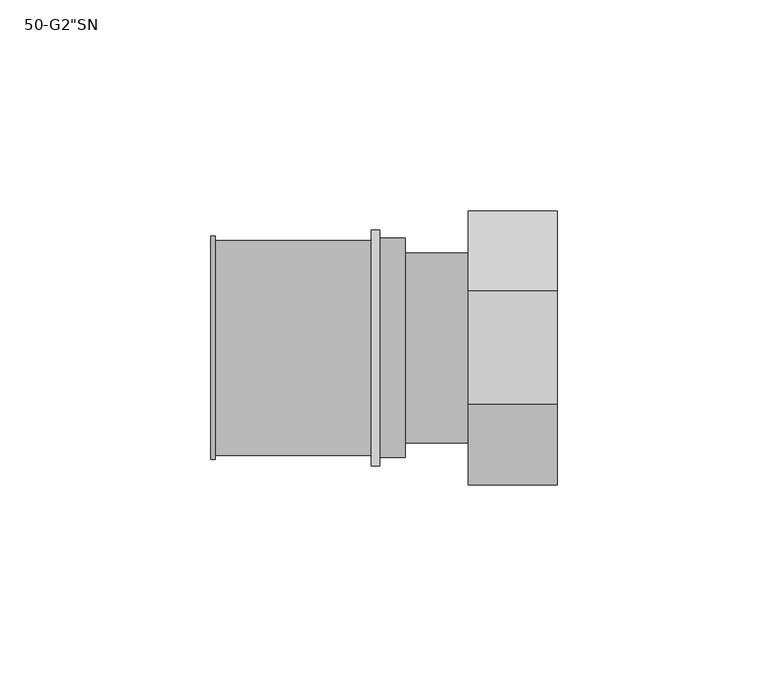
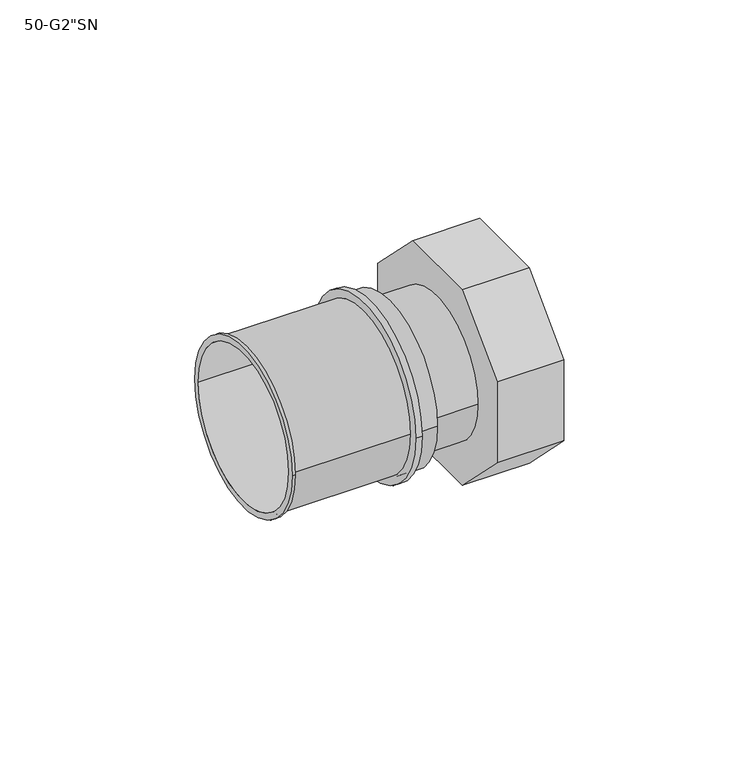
"""IFC4 building model written with IfcOpenShell, lengths in millimetres: pipe fitting geometry."""

from ifc_helpers import new_model, si_unit, point, frame, origin, origin_2d, place, context, project, spatial, polyline, circle_curve, trimmed, segment, composite_curve, outline, extrude, source, transform, mapped, element, save
from ifc_brep_helpers import plane_surface, cylinder_surface, revolved_surface, advanced_brep


def pipe_fitting_b5cbe250(model_context):
    return source(origin(), model_context, "Body", "SolidModel", [
        extrude(outline(composite_curve([segment(trimmed(circle_curve(origin_2d(), 28.0), [point((-28.0, 0.0))], [point((28.0, 0.0))], False, "CARTESIAN"), True, "CONTINUOUS"), segment(trimmed(circle_curve(origin_2d(), 28.0), [point((28.0, 0.0))], [point((-28.0, 0.0))], False, "CARTESIAN"), True, "CONTINUOUS")], self_intersect=False), holes=[composite_curve([segment(trimmed(circle_curve(origin_2d(), 24.5), [point((24.5, 0.0))], [point((-24.5, 0.0))], True, "CARTESIAN"), True, "CONTINUOUS"), segment(trimmed(circle_curve(origin_2d(), 24.5), [point((-24.5, 0.0))], [point((24.5, 0.0))], True, "CARTESIAN"), True, "CONTINUOUS")], self_intersect=False)]), frame((-5.0, 0.0, 0.0), z_axis=(1.0, 0.0, 0.0), x_axis=(0.0, 1.0, 0.0)), (0.0, 0.0, 1.0), 2.0),
        advanced_brep(
        [(25.0, -26.0, 0.0), (25.0, 26.0, 0.0), (39.0, 26.0, 0.0), (39.0, -26.0, 0.0), (18.0, -32.5, 13.4619408), (18.0, -13.4619408, 32.5), (18.0, 13.4619408, 32.5), (18.0, 32.5, 13.4619408), (18.0, 32.5, -13.4619408), (18.0, 13.4619408, -32.5), (18.0, -13.4619408, -32.5), (18.0, -32.5, -13.4619408), (39.0, -32.5, 13.4619408), (39.0, -32.5, -13.4619408), (39.0, -13.4619408, -32.5), (39.0, 13.4619408, -32.5), (39.0, 32.5, -13.4619408), (39.0, 32.5, 13.4619408), (39.0, 13.4619408, 32.5), (39.0, -13.4619408, 32.5)],
        [
            (0, 1, circle_curve(frame((25.0, 0.0, 0.0), z_axis=(1.0, 0.0, 0.0), x_axis=(0.0, 1.0, 0.0)), 26.0)),
            (1, 0, circle_curve(frame((25.0, 0.0, 0.0), z_axis=(1.0, 0.0, 0.0), x_axis=(0.0, 1.0, 0.0)), 26.0)),
            (1, 2),
            (2, 3, circle_curve(frame((39.0, 0.0, 0.0), z_axis=(1.0, 0.0, 0.0), x_axis=(0.0, 1.0, 0.0)), 26.0)),
            (3, 0),
            (3, 2, circle_curve(frame((39.0, 0.0, 0.0), z_axis=(1.0, 0.0, 0.0), x_axis=(0.0, 1.0, 0.0)), 26.0)),
            (4, 5),
            (5, 6),
            (6, 7),
            (7, 8),
            (8, 9),
            (9, 10),
            (10, 11),
            (11, 4),
            (12, 13),
            (13, 14),
            (14, 15),
            (15, 16),
            (16, 17),
            (17, 18),
            (18, 19),
            (19, 12),
            (4, 12),
            (19, 5),
            (18, 6),
            (17, 7),
            (16, 8),
            (15, 9),
            (14, 10),
            (13, 11),
        ],
        [
            plane_surface(frame((25.0, 0.0, 0.0), z_axis=(1.0, 0.0, 0.0), x_axis=(0.0, 0.0, 1.0))),
            revolved_surface(polyline([(25.0, 26.0, 0.0), (39.0, 26.0, 0.0)]), (25.0, 0.0, 0.0), (-1.0, 0.0, 0.0)),
            plane_surface(frame((18.0, 0.0, 0.0), z_axis=(-1.0, 0.0, 0.0), x_axis=(0.0, 0.0, 1.0))),
            plane_surface(frame((39.0, 0.0, 0.0), z_axis=(1.0, 0.0, 0.0), x_axis=(0.0, 0.0, 1.0))),
            plane_surface(frame((18.0, -32.5, 13.4619408), z_axis=(0.0, -0.7071067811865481, 0.707106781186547), x_axis=(1.0, 0.0, 0.0))),
            plane_surface(frame((18.0, -13.4619408, 32.5), z_axis=(0.0, 0.0, 1.0), x_axis=(1.0, 0.0, 0.0))),
            plane_surface(frame((18.0, 13.4619408, 32.5), z_axis=(0.0, 0.7071067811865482, 0.7071067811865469), x_axis=(1.0, 0.0, 0.0))),
            plane_surface(frame((18.0, 32.5, 13.4619408), z_axis=(0.0, 1.0, 0.0), x_axis=(1.0, 0.0, 0.0))),
            plane_surface(frame((18.0, 32.5, -13.4619408), z_axis=(0.0, 0.7071067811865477, -0.7071067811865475), x_axis=(1.0, 0.0, 0.0))),
            plane_surface(frame((18.0, 13.4619408, -32.5), z_axis=(0.0, 0.0, -1.0), x_axis=(1.0, 0.0, 0.0))),
            plane_surface(frame((18.0, -13.4619408, -32.5), z_axis=(0.0, -0.707106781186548, -0.707106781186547), x_axis=(1.0, 0.0, 0.0))),
            plane_surface(frame((18.0, -32.5, -13.4619408), z_axis=(0.0, -1.0, 0.0), x_axis=(1.0, 0.0, 0.0))),
        ],
        [
            (0, [[1, 2]]),
            (1, [[-2, 3, 4, 5]]),
            (1, [[-1, -5, 6, -3]]),
            (2, [[7, 8, 9, 10, 11, 12, 13, 14]]),
            (3, [[15, 16, 17, 18, 19, 20, 21, 22], [-4, -6]]),
            (4, [[-7, 23, -22, 24]]),
            (5, [[-8, -24, -21, 25]]),
            (6, [[-9, -25, -20, 26]]),
            (7, [[-10, -26, -19, 27]]),
            (8, [[-11, -27, -18, 28]]),
            (9, [[-12, -28, -17, 29]]),
            (10, [[-13, -29, -16, 30]]),
            (11, [[-14, -30, -15, -23]]),
        ],
    ),
        advanced_brep(
        [(-3.0, -26.0, 0.0), (-3.0, 26.0, 0.0), (3.0, -26.0, 0.0), (3.0, 26.0, 0.0), (3.0, -22.5, 0.0), (3.0, 22.5, 0.0), (18.0, -22.5, 0.0), (18.0, 22.5, 0.0)],
        [
            (0, 1, circle_curve(frame((-3.0, 0.0, 0.0), z_axis=(-1.0, 0.0, 0.0), x_axis=(0.0, 1.0, 0.0)), 26.0)),
            (1, 0, circle_curve(frame((-3.0, 0.0, 0.0), z_axis=(-1.0, 0.0, 0.0), x_axis=(0.0, 1.0, 0.0)), 26.0)),
            (2, 3, circle_curve(frame((3.0, 0.0, 0.0), z_axis=(1.0, 0.0, 0.0), x_axis=(0.0, 1.0, 0.0)), 26.0)),
            (3, 2, circle_curve(frame((3.0, 0.0, 0.0), z_axis=(1.0, 0.0, 0.0), x_axis=(0.0, 1.0, 0.0)), 26.0)),
            (4, 5, circle_curve(frame((3.0, 0.0, 0.0), z_axis=(-1.0, 0.0, 0.0), x_axis=(0.0, 1.0, 0.0)), 22.5)),
            (5, 4, circle_curve(frame((3.0, 0.0, 0.0), z_axis=(-1.0, 0.0, 0.0), x_axis=(0.0, 1.0, 0.0)), 22.5)),
            (1, 3),
            (2, 0),
            (6, 7, circle_curve(frame((18.0, 0.0, 0.0), z_axis=(1.0, 0.0, 0.0), x_axis=(0.0, 1.0, 0.0)), 22.5)),
            (7, 6, circle_curve(frame((18.0, 0.0, 0.0), z_axis=(1.0, 0.0, 0.0), x_axis=(0.0, 1.0, 0.0)), 22.5)),
            (7, 5),
            (4, 6),
        ],
        [
            plane_surface(frame((-3.0, 0.0, 0.0), z_axis=(-1.0, 0.0, 0.0), x_axis=(0.0, 0.0, 1.0))),
            plane_surface(frame((3.0, 0.0, 0.0), z_axis=(1.0, 0.0, 0.0), x_axis=(0.0, 0.0, 1.0))),
            cylinder_surface(frame((-3.0, 0.0, 0.0), z_axis=(-1.0, 0.0, 0.0), x_axis=(0.0, 1.0, 0.0)), 26.0),
            plane_surface(frame((18.0, 0.0, 0.0), z_axis=(1.0, 0.0, 0.0), x_axis=(0.0, 0.0, 1.0))),
            cylinder_surface(frame((3.0, 0.0, 0.0), z_axis=(-1.0, 0.0, 0.0), x_axis=(0.0, 1.0, 0.0)), 22.5),
        ],
        [
            (0, [[1, 2]]),
            (1, [[3, 4], [5, 6]]),
            (2, [[-2, 7, -3, 8]]),
            (2, [[-1, -8, -4, -7]]),
            (3, [[9, 10]]),
            (4, [[-10, 11, -5, 12]]),
            (4, [[-9, -12, -6, -11]]),
        ],
    ),
        advanced_brep(
        [(-43.0, -26.5, 0.0), (-43.0, 26.5, 0.0), (-43.0, -24.5, 0.0), (-43.0, 24.5, 0.0), (-5.0, -25.5, 0.0), (-5.0, 25.5, 0.0), (-5.0, -24.5, 0.0), (-5.0, 24.5, 0.0), (-42.0, 25.5, 0.0), (-42.0, -25.5, 0.0), (-42.0, -24.5, 0.0), (-42.0, 24.5, 0.0), (-42.0, -26.5, 0.0), (-42.0, 26.5, 0.0)],
        [
            (0, 1, circle_curve(frame((-43.0, 0.0, 0.0), z_axis=(-1.0, 0.0, 0.0), x_axis=(0.0, 1.0, 0.0)), 26.5)),
            (1, 0, circle_curve(frame((-43.0, 0.0, 0.0), z_axis=(-1.0, 0.0, 0.0), x_axis=(0.0, 1.0, 0.0)), 26.5)),
            (2, 3, circle_curve(frame((-43.0, 0.0, 0.0), z_axis=(1.0, 0.0, 0.0), x_axis=(0.0, 1.0, 0.0)), 24.5)),
            (3, 2, circle_curve(frame((-43.0, 0.0, 0.0), z_axis=(1.0, 0.0, 0.0), x_axis=(0.0, 1.0, 0.0)), 24.5)),
            (4, 5, circle_curve(frame((-5.0, 0.0, 0.0), z_axis=(1.0, 0.0, 0.0), x_axis=(0.0, 1.0, 0.0)), 25.5)),
            (5, 4, circle_curve(frame((-5.0, 0.0, 0.0), z_axis=(1.0, 0.0, 0.0), x_axis=(0.0, 1.0, 0.0)), 25.5)),
            (6, 7, circle_curve(frame((-5.0, 0.0, 0.0), z_axis=(-1.0, 0.0, 0.0), x_axis=(0.0, 1.0, 0.0)), 24.5)),
            (7, 6, circle_curve(frame((-5.0, 0.0, 0.0), z_axis=(-1.0, 0.0, 0.0), x_axis=(0.0, 1.0, 0.0)), 24.5)),
            (5, 8),
            (8, 9, circle_curve(frame((-42.0, 0.0, 0.0), z_axis=(1.0, 0.0, 0.0), x_axis=(0.0, 1.0, 0.0)), 25.5)),
            (9, 4),
            (9, 8, circle_curve(frame((-42.0, 0.0, 0.0), z_axis=(1.0, 0.0, 0.0), x_axis=(0.0, 1.0, 0.0)), 25.5)),
            (2, 10),
            (10, 6),
            (7, 11),
            (11, 3),
            (12, 13, circle_curve(frame((-42.0, 0.0, 0.0), z_axis=(1.0, 0.0, 0.0), x_axis=(0.0, 1.0, 0.0)), 26.5)),
            (13, 12, circle_curve(frame((-42.0, 0.0, 0.0), z_axis=(1.0, 0.0, 0.0), x_axis=(0.0, 1.0, 0.0)), 26.5)),
            (0, 12),
            (13, 1),
        ],
        [
            plane_surface(frame((-43.0, 0.0, 0.0), z_axis=(-1.0, 0.0, 0.0), x_axis=(0.0, 0.0, 1.0))),
            plane_surface(frame((-5.0, 0.0, 0.0), z_axis=(1.0, 0.0, 0.0), x_axis=(0.0, 0.0, 1.0))),
            cylinder_surface(frame((-43.0, 0.0, 0.0), z_axis=(-1.0, 0.0, 0.0), x_axis=(0.0, 1.0, 0.0)), 25.5),
            revolved_surface(polyline([(-5.0, 24.5, 0.0), (-43.0, 24.5, 0.0)]), (-43.0, 0.0, 0.0), (1.0, 0.0, 0.0)),
            plane_surface(frame((-42.0, 0.0, 0.0), z_axis=(1.0, 0.0, 0.0), x_axis=(0.0, 0.0, 1.0))),
            cylinder_surface(frame((-43.0, 0.0, 0.0), z_axis=(-1.0, 0.0, 0.0), x_axis=(0.0, 1.0, 0.0)), 26.5),
        ],
        [
            (0, [[1, 2], [3, 4]]),
            (1, [[5, 6], [7, 8]]),
            (2, [[-6, 9, 10, 11]]),
            (2, [[-5, -11, 12, -9]]),
            (3, [[-3, 13, 14, -8, 15, 16]]),
            (3, [[-4, -16, -15, -7, -14, -13]]),
            (4, [[17, 18], [-10, -12]]),
            (5, [[-1, 19, -18, 20]]),
            (5, [[-2, -20, -17, -19]]),
        ],
    ),
    ])


if __name__ == "__main__":
    model = new_model("IFC4")
    model_context = context("Model", 3, world=origin())
    ifc_project = project(units=[si_unit("LENGTHUNIT", "METRE", prefix="MILLI")], contexts=[model_context])
    site = spatial("IfcSite", under=ifc_project)
    building = spatial("IfcBuilding", under=site)
    placement = place(None, origin())
    pipe_fitting_shape = pipe_fitting_b5cbe250(model_context)
    element("IfcPipeFitting", 1, ObjectType="SuperPipe_AdapterSN_MAX_G : 50-G2\"SN", at=placement, inside=building, context=model_context, shape_type="MappedRepresentation", body=[
        mapped(pipe_fitting_shape, transform((0.0, 0.0, 0.0), x_axis=(1.0, 0.0, 0.0), y_axis=(0.0, 1.0, 0.0), z_axis=(0.0, 0.0, 1.0))),
    ])
    save(model, "model.ifc")
